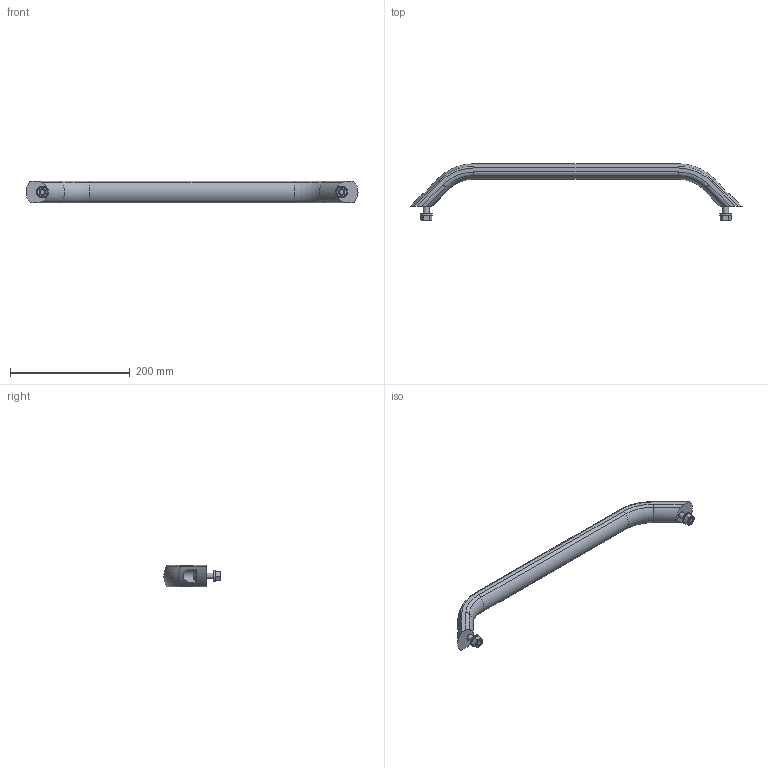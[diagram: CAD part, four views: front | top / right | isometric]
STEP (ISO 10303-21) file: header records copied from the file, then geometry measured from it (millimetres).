
FILE_DESCRIPTION( ( 'STEP AP203' ), '1' );
FILE_NAME( 'C:/Temp/Ganter_Step_05_03_2020/data/1_2/gn_428/gn_428_b/Cabinet U-handle GN 428-AL-36-500-B-SW.stp', '2020-03-05T10:11:40', ( 'License CC BY-ND 4.0' ), ( 'CADENAS' ), ' ', 'PARTsolutions', ' ' );
FILE_SCHEMA( ( 'CONFIG_CONTROL_DESIGN' ) );
Length unit declared in the file: millimetre
Products named in the file (1): _Cabinet U-handle GN 428-AL-36-500-B-SW
Bounding box: 554.73 x 94.31 x 36 mm (x, y, z)
Volume: 432104.1 mm3; surface area: 66129 mm2
Topology: 1 solids, 1 shells, 124 faces, 268 edges, 164 vertices
Faces by surface type: plane 50, cylinder 30, cone 30, torus 12, bspline 2
Full cylindrical faces by diameter (mm): 10 x2, 10.5 x2, 11 x2, 17.5 x2, 20 x2
Entity records: 3610 total; most frequent: CARTESIAN_POINT 967, DIRECTION 554, ORIENTED_EDGE 496, EDGE_CURVE 248, AXIS2_PLACEMENT_3D 233, VERTEX_POINT 162, EDGE_LOOP 160, FACE_OUTER_BOUND 136
